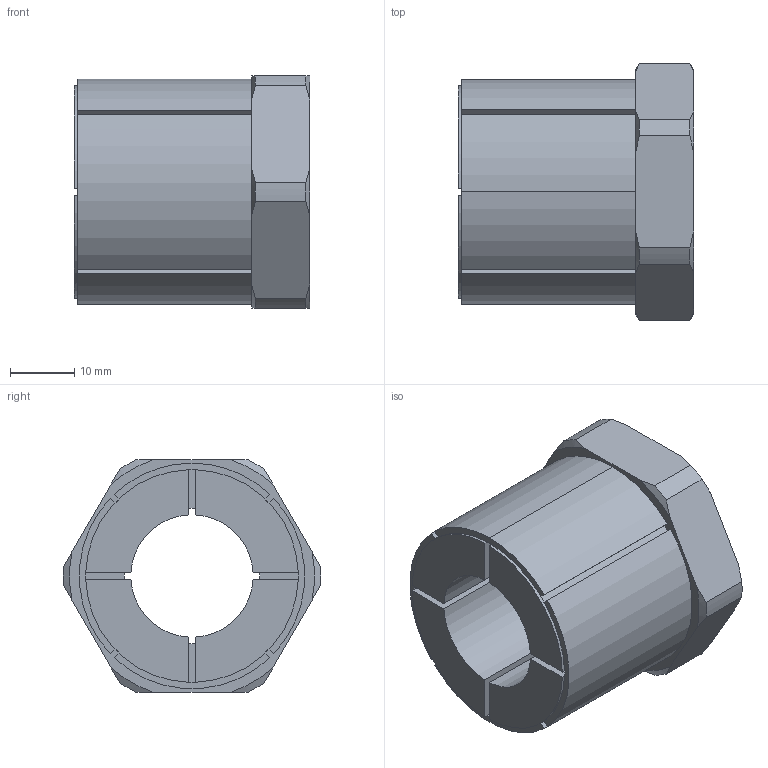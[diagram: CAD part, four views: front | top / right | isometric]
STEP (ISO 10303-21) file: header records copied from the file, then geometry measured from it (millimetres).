
FILE_DESCRIPTION (( 'STEP AP203' ), '1' );
FILE_NAME ('KBS 58 - 19 x 35.STEP', '2015-07-05T19:57:06', ( '' ), ( '' ), 'SwSTEP 2.0', 'SolidWorks 2010', '' );
FILE_SCHEMA (( 'CONFIG_CONTROL_DESIGN' ));
Length unit declared in the file: millimetre
Products named in the file (1): KBS 58 - 19 x 35
Bounding box: 36.5 x 39.99 x 36 mm (x, y, z)
Volume: 24933.9 mm3; surface area: 10161.1 mm2
Topology: 1 solids, 1 shells, 79 faces, 220 edges, 144 vertices
Faces by surface type: plane 37, cylinder 26, cone 16
Entity records: 2687 total; most frequent: CARTESIAN_POINT 564, ORIENTED_EDGE 440, DIRECTION 428, EDGE_CURVE 220, AXIS2_PLACEMENT_3D 160, VERTEX_POINT 144, VECTOR 108, LINE 108
